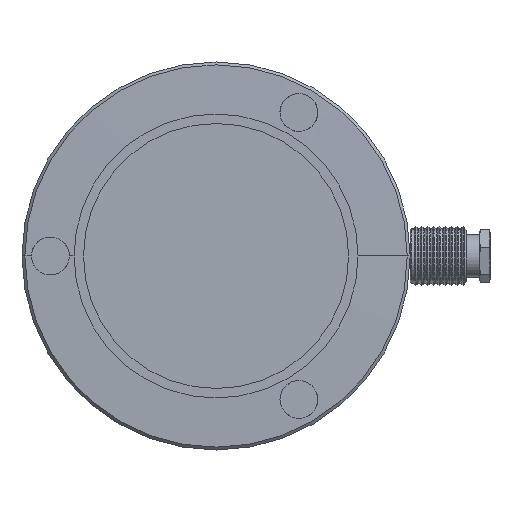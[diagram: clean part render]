
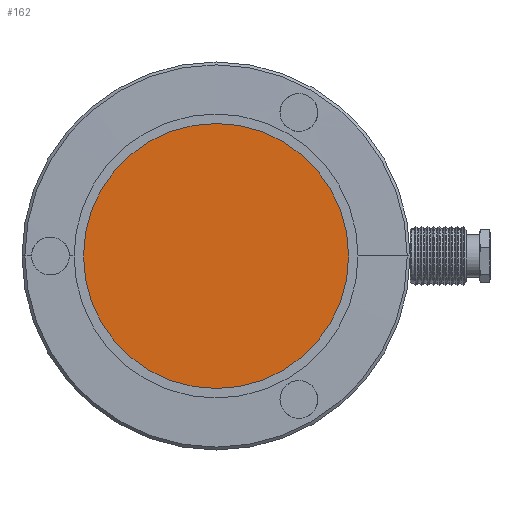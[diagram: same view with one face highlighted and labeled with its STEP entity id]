
A CAD part, front view. The second image highlights one B-rep face of the part: STEP entity #162.
In plain terms, the highlighted planar face has unit normal (0, -1, 0).
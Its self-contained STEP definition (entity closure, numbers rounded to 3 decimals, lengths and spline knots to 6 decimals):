
#162=ADVANCED_FACE('0:92',(#342),#343,.T.);
#342=FACE_OUTER_BOUND('',#638,.T.);
#343=PLANE('',#639);
#638=EDGE_LOOP('',(#1091,#1092));
#639=AXIS2_PLACEMENT_3D('',#1093,#1094,#1095);
#1091=ORIENTED_EDGE('',*,*,#1932,.T.);
#1092=ORIENTED_EDGE('',*,*,#1905,.T.);
#1093=CARTESIAN_POINT('',(0.001398,-0.016418,0.0));
#1094=DIRECTION('',(0.,-1.0,0.0));
#1095=DIRECTION('',(-1.0,0.,0.0));
#1905=EDGE_CURVE('0:134',#2219,#2223,#2225,.T.);
#1932=EDGE_CURVE('0:134',#2223,#2219,#2263,.T.);
#2219=VERTEX_POINT('',#2888);
#2223=VERTEX_POINT('',#2893);
#2225=CIRCLE('',#2896,0.028);
#2263=CIRCLE('',#3156,0.028);
#2888=CARTESIAN_POINT('',(0.029398,-0.016418,0.));
#2893=CARTESIAN_POINT('',(-0.026602,-0.016418,0.));
#2896=AXIS2_PLACEMENT_3D('',#3691,#3692,#3693);
#3156=AXIS2_PLACEMENT_3D('',#3742,#3743,#3744);
#3691=CARTESIAN_POINT('',(0.001398,-0.016418,0.0));
#3692=DIRECTION('',(0.0,-1.0,0.0));
#3693=DIRECTION('',(1.0,0.0,0.0));
#3742=CARTESIAN_POINT('',(0.001398,-0.016418,0.0));
#3743=DIRECTION('',(0.0,-1.0,0.0));
#3744=DIRECTION('',(1.0,0.0,0.0));
